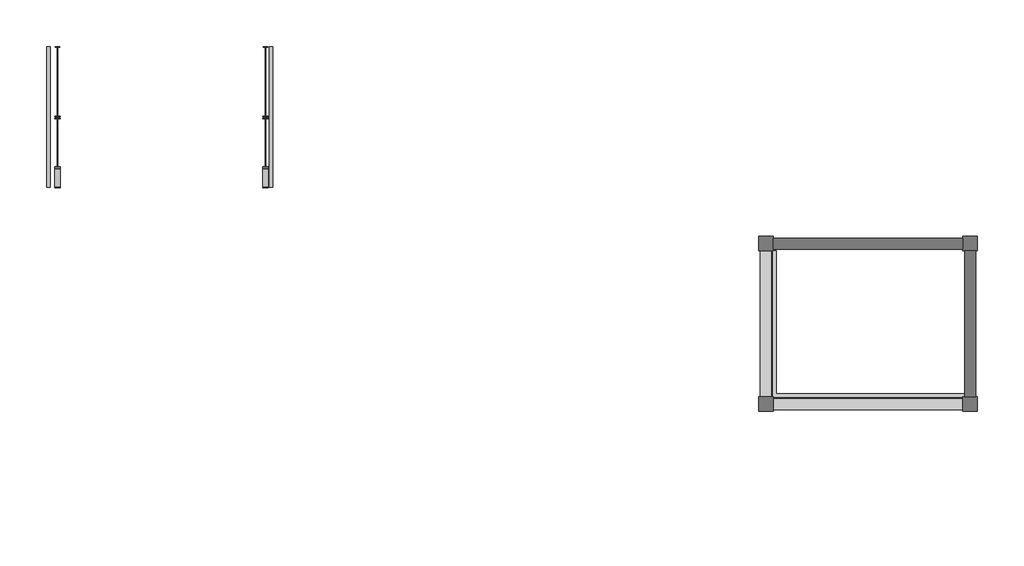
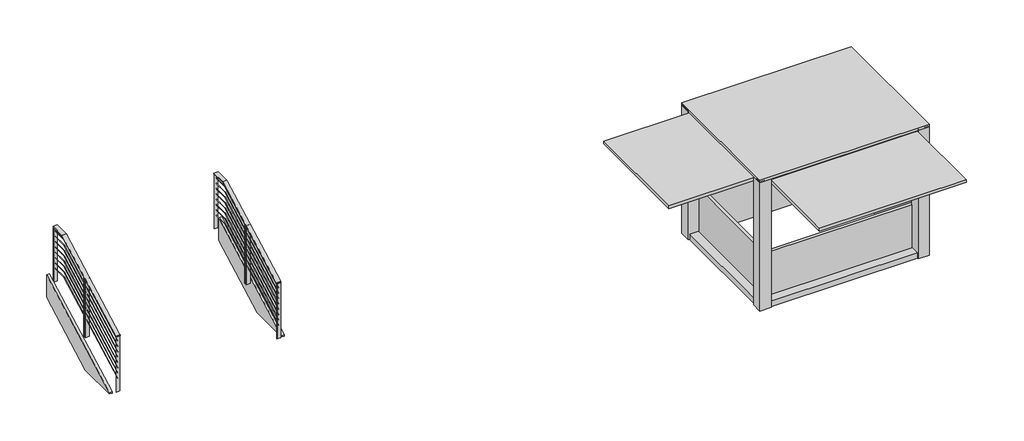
# One storey: 2 members, 2 railings, 1 proxy.
"""IFC4 building model written with IfcOpenShell, lengths in millimetres."""

from ifc_helpers import new_model, si_unit, frame, origin, place, context, project, spatial, polyline, outline, extrude, transform, mapped, element, save
from components import generic_models_1_generic_models_1_2e5872b8, cable_guard_rail_r2_296d2862, cable_guard_rail_r2_9b65f9f1

model = new_model("IFC4")

# Units and contexts
model_context = context("Model", 3, world=origin())
ifc_project = project(units=[si_unit("LENGTHUNIT", "METRE", prefix="MILLI")], contexts=[model_context])

# Site, building, storey
site = spatial("IfcSite", under=ifc_project)
building = spatial("IfcBuilding", under=site)
storey = spatial("IfcBuildingStorey", under=building, Name="EX. PARKING (NORTH) PIEDMONT", Elevation=293954.2)

# Proxy
placement = place(None, origin())
generic_models_1_generic_models_1_shape = generic_models_1_generic_models_1_2e5872b8(model_context)
element("IfcBuildingElementProxy", 1, Name="Generic Models 1 : Generic Models 1", ObjectType="Generic Models 1 : Generic Models 1", at=placement, inside=storey, context=model_context, shape_type="MappedRepresentation", body=[
    mapped(generic_models_1_generic_models_1_shape, transform((-93700.6, 46433.3553541, 290423.6102944), x_axis=(1.0, 0.0, 0.0), y_axis=(0.0, 1.0, 0.0), z_axis=(0.0, 0.0, 1.0))),
])

# Members
element("IfcMember", 2, ObjectType="Stringer - 2\" Width", at=placement, inside=storey, context=model_context, shape_type="SweptSolid", body=[
    extrude(outline(polyline([(188220.7414421, 293954.2), (188220.7414421, 293979.7610711), (190176.5414421, 295039.1527378), (190176.5414421, 294605.8495637), (188973.4960937, 293954.2), (188220.7414421, 293954.2)])), frame((23127.2025234, 0.0, 0.0), z_axis=(1.0, 0.0, 0.0), x_axis=(0.0, 1.0, 0.0)), (0.0, 0.0, 1.0), 50.8),
])
element("IfcMember", 3, ObjectType="Stringer - 2\" Width", at=placement, inside=storey, context=model_context, shape_type="SweptSolid", body=[
    extrude(outline(polyline([(188220.7414421, 293954.2), (188220.7414421, 293979.7610711), (190176.5414421, 295039.1527378), (190176.5414421, 294605.8495637), (188973.4960937, 293954.2), (188220.7414421, 293954.2)])), frame((26226.0025234, 0.0, 0.0), z_axis=(1.0, 0.0, 0.0), x_axis=(0.0, 1.0, 0.0)), (0.0, 0.0, 1.0), 50.8),
])

# Railings
cable_guard_rail_r2_shape = cable_guard_rail_r2_296d2862(model_context)
element("IfcRailing", 4, ObjectType="Cable Guard Rail - R2", at=placement, inside=storey, context=model_context, shape_type="MappedRepresentation", body=[
    mapped(cable_guard_rail_r2_shape, transform((0.0, 0.0, 0.0), x_axis=(1.0, 0.0, 0.0), y_axis=(0.0, 1.0, 0.0), z_axis=(0.0, 0.0, 1.0))),
])
cable_guard_rail_r2_2_shape = cable_guard_rail_r2_9b65f9f1(model_context)
element("IfcRailing", 5, ObjectType="Cable Guard Rail - R2", at=placement, inside=storey, context=model_context, shape_type="MappedRepresentation", body=[
    mapped(cable_guard_rail_r2_2_shape, transform((0.0, 0.0, 0.0), x_axis=(1.0, 0.0, 0.0), y_axis=(0.0, 1.0, 0.0), z_axis=(0.0, 0.0, 1.0))),
])

save(model, "model.ifc")
